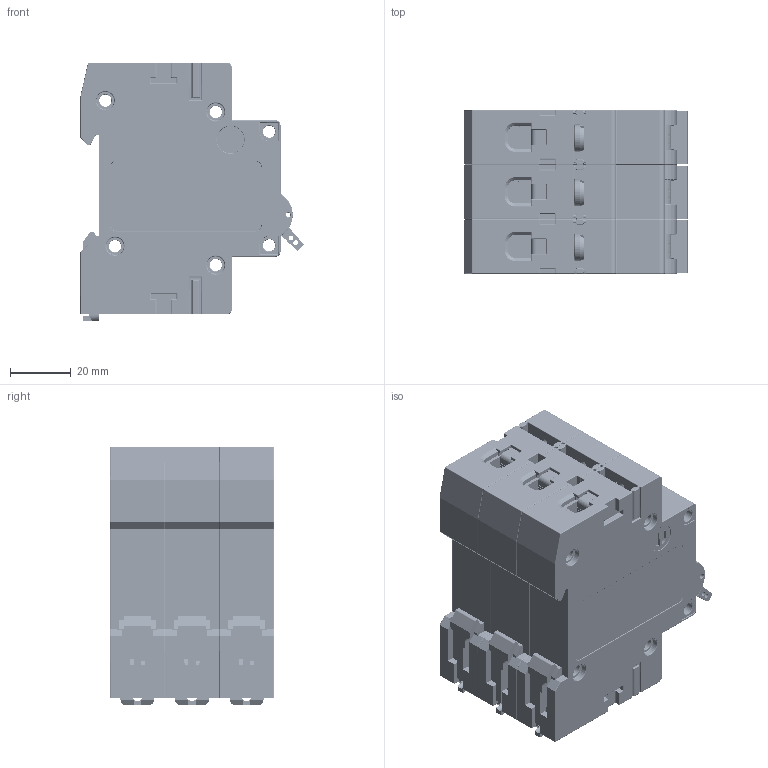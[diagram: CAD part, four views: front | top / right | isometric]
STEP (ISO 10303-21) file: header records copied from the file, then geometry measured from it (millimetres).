
FILE_DESCRIPTION (( 'STEP AP214' ), '1' );
FILE_NAME ('EVOZ3D10.STEP', '2026-06-18T08:06:48', ( '' ), ( '' ), 'SwSTEP 2.0', 'SolidWorks 2025', '' );
FILE_SCHEMA (( 'AUTOMOTIVE_DESIGN' ));
Length unit declared in the file: millimetre
Products named in the file (1): EVOZ3D10
Bounding box: 73.55 x 54 x 85.3 mm (x, y, z)
Volume: 209485.8 mm3; surface area: 99251.9 mm2
Topology: 18 solids, 54 shells, 6111 faces, 16419 edges, 10469 vertices
Faces by surface type: plane 3369, cylinder 1902, torus 507, sphere 132, bspline 108, cone 93
Entity records: 226731 total; most frequent: CARTESIAN_POINT 71504, ORIENTED_EDGE 32550, DIRECTION 30345, EDGE_CURVE 16275, LINE 10531, VECTOR 10531, VERTEX_POINT 10469, AXIS2_PLACEMENT_3D 9907
